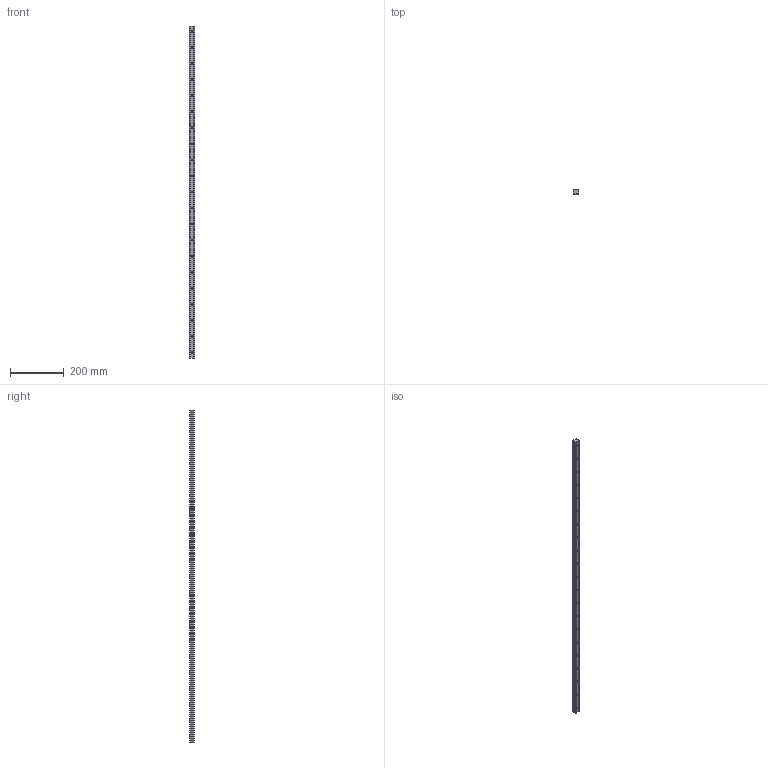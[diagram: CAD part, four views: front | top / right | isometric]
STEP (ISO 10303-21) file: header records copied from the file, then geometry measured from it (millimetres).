
FILE_DESCRIPTION (( 'STEP AP203' ), '1' );
FILE_NAME ('L1016.BL20-1240.step', '2019-06-12T11:48:46', ( '' ), ( '' ), 'SwSTEP 2.0', 'SolidWorks 2017', '' );
FILE_SCHEMA (( 'CONFIG_CONTROL_DESIGN' ));
Length unit declared in the file: millimetre
Products named in the file (1): L1016.BL20-1240
Bounding box: 20 x 16.3 x 1240 mm (x, y, z)
Volume: 344532.2 mm3; surface area: 100140.3 mm2
Topology: 1 solids, 1 shells, 131 faces, 324 edges, 216 vertices
Faces by surface type: cylinder 88, plane 43
Entity records: 4135 total; most frequent: DIRECTION 764, CARTESIAN_POINT 672, ORIENTED_EDGE 648, EDGE_CURVE 324, AXIS2_PLACEMENT_3D 308, VERTEX_POINT 216, EDGE_LOOP 194, CIRCLE 176
